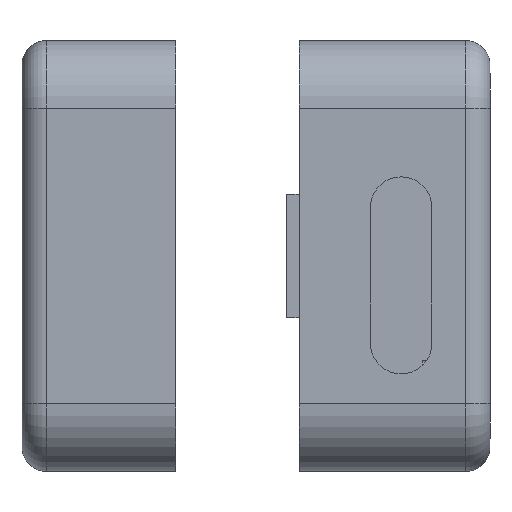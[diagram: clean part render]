
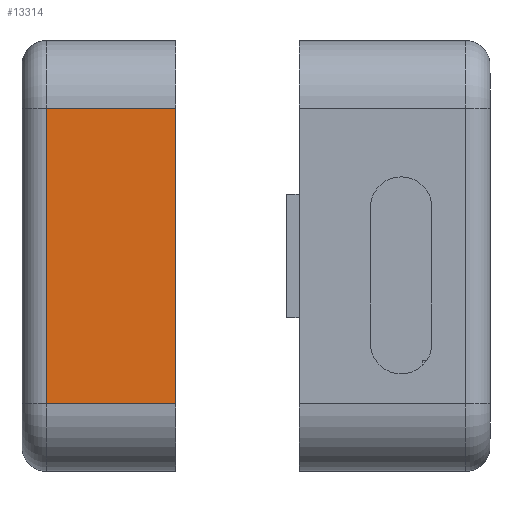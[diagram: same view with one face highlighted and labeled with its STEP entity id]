
A CAD part, left-side view. The second image highlights one B-rep face of the part: STEP entity #13314.
In plain terms, the highlighted planar face has unit normal (-1, 0, 0).
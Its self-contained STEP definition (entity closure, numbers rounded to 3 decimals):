
#12065=DIRECTION('',(0.,0.,1.));
#12066=VECTOR('',#12065,24.);
#12067=CARTESIAN_POINT('',(-35.,10.,-12.));
#12068=LINE('',#12067,#12066);
#12164=DIRECTION('',(0.,0.,1.));
#12165=VECTOR('',#12164,24.);
#12166=CARTESIAN_POINT('',(-35.,20.5,-12.));
#12167=LINE('',#12166,#12165);
#12168=DIRECTION('',(0.,1.,0.));
#12169=VECTOR('',#12168,10.5);
#12170=CARTESIAN_POINT('',(-35.,10.,-12.));
#12171=LINE('',#12170,#12169);
#12241=DIRECTION('',(0.,1.,0.));
#12242=VECTOR('',#12241,10.5);
#12243=CARTESIAN_POINT('',(-35.,10.,12.));
#12244=LINE('',#12243,#12242);
#12830=CARTESIAN_POINT('',(-35.,10.,-12.));
#12832=VERTEX_POINT('',#12830);
#12833=CARTESIAN_POINT('',(-35.,10.,12.));
#12834=VERTEX_POINT('',#12833);
#12866=CARTESIAN_POINT('',(-35.,20.5,-12.));
#12868=VERTEX_POINT('',#12866);
#12871=CARTESIAN_POINT('',(-35.,20.5,12.));
#12872=VERTEX_POINT('',#12871);
#13301=CARTESIAN_POINT('',(-35.,10.,-12.));
#13302=DIRECTION('',(-1.,0.,0.));
#13303=DIRECTION('',(0.,0.,1.));
#13304=AXIS2_PLACEMENT_3D('',#13301,#13302,#13303);
#13305=PLANE('',#13304);
#13307=ORIENTED_EDGE('',*,*,#13306,.T.);
#13309=ORIENTED_EDGE('',*,*,#13308,.F.);
#13310=ORIENTED_EDGE('',*,*,#13251,.F.);
#13311=ORIENTED_EDGE('',*,*,#13104,.T.);
#13312=EDGE_LOOP('',(#13307,#13309,#13310,#13311));
#13313=FACE_OUTER_BOUND('',#13312,.F.);
#13314=ADVANCED_FACE('',(#13313),#13305,.T.);
#13104=EDGE_CURVE('',#12832,#12868,#12171,.T.);
#13251=EDGE_CURVE('',#12832,#12834,#12068,.T.);
#13306=EDGE_CURVE('',#12868,#12872,#12167,.T.);
#13308=EDGE_CURVE('',#12834,#12872,#12244,.T.);
